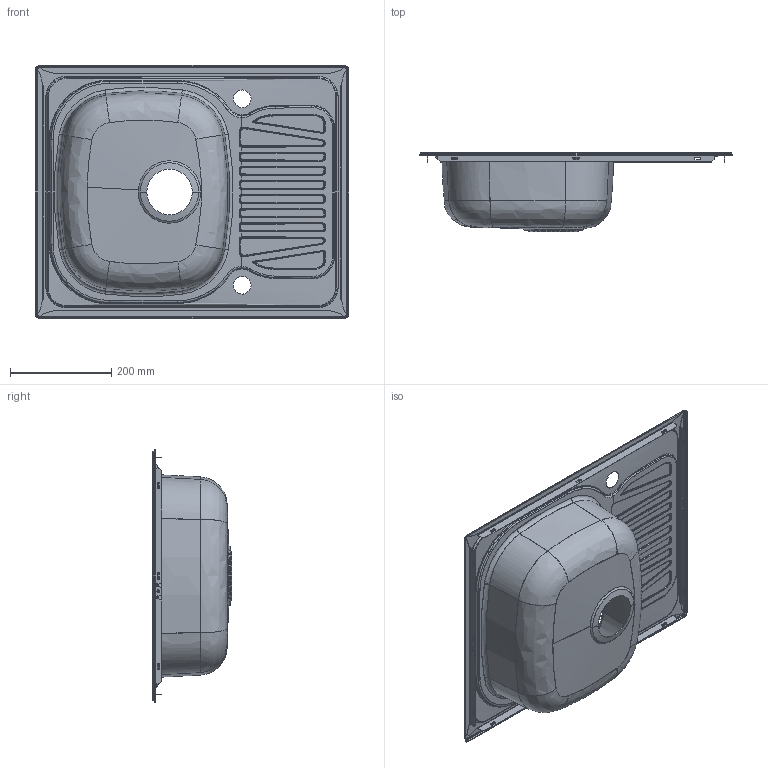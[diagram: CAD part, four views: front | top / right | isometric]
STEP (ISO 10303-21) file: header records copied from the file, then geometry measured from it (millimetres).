
FILE_DESCRIPTION (( 'STEP AP214' ), '1' );
FILE_NAME ('Sparta_100132512_100136112.STEP', '2021-02-15T09:06:04', ( '' ), ( '' ), 'SwSTEP 2.0', 'SolidWorks 2020', '' );
FILE_SCHEMA (( 'AUTOMOTIVE_DESIGN' ));
Length unit declared in the file: millimetre
Products named in the file (1): Sparta_100132512_100136112
Bounding box: 621 x 156.63 x 501 mm (x, y, z)
Volume: 318608.4 mm3; surface area: 1013619.8 mm2
Topology: 1 solids, 1 shells, 1191 faces, 2973 edges, 1812 vertices
Faces by surface type: bspline 444, plane 390, cylinder 301, cone 36, torus 20
Entity records: 103792 total; most frequent: CARTESIAN_POINT 79689, ORIENTED_EDGE 5946, DIRECTION 3650, EDGE_CURVE 2973, VERTEX_POINT 1812, EDGE_LOOP 1263, LINE 1238, VECTOR 1238
